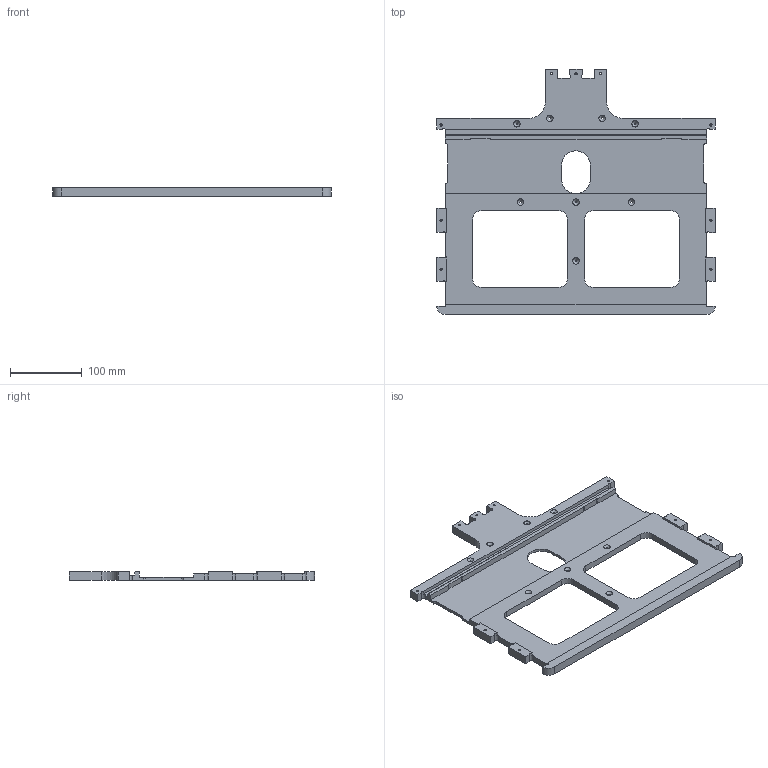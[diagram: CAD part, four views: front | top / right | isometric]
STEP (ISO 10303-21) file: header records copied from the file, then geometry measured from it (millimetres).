
FILE_DESCRIPTION(/* description */ ('','CAx-IF Rec.Pracs.---Representation and Presentation of Product Manufacturing Information (PMI)---4.0---2014-10-13'),/* implementation_level */ '2;1');
FILE_NAME(/* name */ 'TP-Base-12mm.step',/* time_stamp */ '2024-12-17T12:27:37+01:00',/* author */ (''),/* organization */ (''),/* preprocessor_version */ 'ST-DEVELOPER v20',/* originating_system */ 'Autodesk Translation Framework v13.20.0.188',/* authorisation */ '');
FILE_SCHEMA (('PROCESS_PLANNING_SCHEMA','AP242_MANAGED_MODEL_BASED_3D_ENGINEERING_MIM_LF { 1 0 10303 442 1 1 4 }'));
Length unit declared in the file: millimetre
Products named in the file (1): Base
Bounding box: 389 x 342.36 x 12 mm (x, y, z)
Volume: 622971.3 mm3; surface area: 192485.2 mm2
Topology: 1 solids, 1 shells, 161 faces, 462 edges, 302 vertices
Faces by surface type: plane 89, cylinder 55, cone 17
Full cylindrical faces by diameter (mm): 3 x17
Entity records: 5392 total; most frequent: DIRECTION 926, CARTESIAN_POINT 926, ORIENTED_EDGE 924, EDGE_CURVE 462, LINE 322, VECTOR 322, VERTEX_POINT 302, AXIS2_PLACEMENT_3D 302
